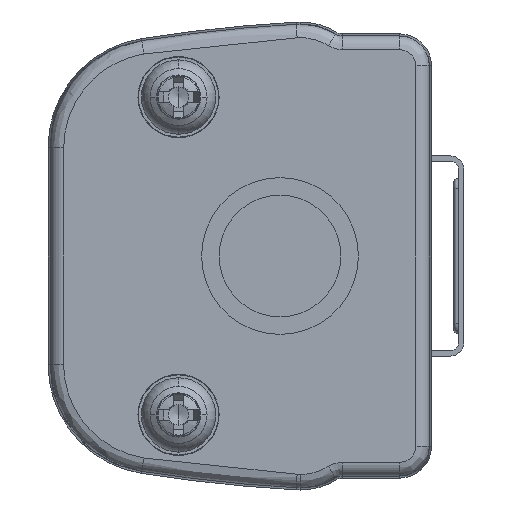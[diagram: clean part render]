
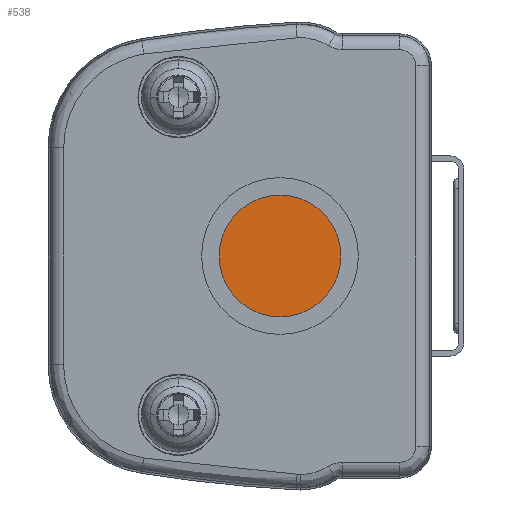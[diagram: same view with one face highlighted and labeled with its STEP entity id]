
A CAD part, left-side view. The second image highlights one B-rep face of the part: STEP entity #538.
In plain terms, the highlighted planar face has unit normal (-1, 0, 0).
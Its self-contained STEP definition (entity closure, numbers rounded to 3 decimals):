
#538 = ADVANCED_FACE ( 'NONE', ( #6639 ), #4365, .T. ) ;
#3028 = CARTESIAN_POINT ( 'NONE',  ( -157.2, -2.628, 305. ) ) ;
#3164 = CARTESIAN_POINT ( 'NONE',  ( -157.2, -2.628, 309.5 ) ) ;
#3311 = AXIS2_PLACEMENT_3D ( 'NONE', #3028, #7895, #8906 ) ;
#3811 = EDGE_CURVE ( 'NONE', #10605, #4423, #3961, .T. ) ;
#3827 = CIRCLE ( 'NONE', #6085, 4.5 ) ;
#3961 = CIRCLE ( 'NONE', #4215, 4.5 ) ;
#4215 = AXIS2_PLACEMENT_3D ( 'NONE', #10098, #8833, #5223 ) ;
#4365 = PLANE ( 'NONE',  #3311 ) ;
#4423 = VERTEX_POINT ( 'NONE', #3164 ) ;
#5223 = DIRECTION ( 'NONE',  ( 0., 0., 1. ) ) ;
#6085 = AXIS2_PLACEMENT_3D ( 'NONE', #12112, #12042, #7461 ) ;
#6639 = FACE_OUTER_BOUND ( 'NONE', #13942, .T. ) ;
#7425 = ORIENTED_EDGE ( 'NONE', *, *, #3811, .T. ) ;
#7461 = DIRECTION ( 'NONE',  ( 0., 0., 1. ) ) ;
#7895 = DIRECTION ( 'NONE',  ( -1., 0., 0. ) ) ;
#8833 = DIRECTION ( 'NONE',  ( -1., 0., 0. ) ) ;
#8906 = DIRECTION ( 'NONE',  ( 0., 0., 1. ) ) ;
#10098 = CARTESIAN_POINT ( 'NONE',  ( -157.2, -2.628, 305. ) ) ;
#10605 = VERTEX_POINT ( 'NONE', #11039 ) ;
#11039 = CARTESIAN_POINT ( 'NONE',  ( -157.2, -2.628, 300.5 ) ) ;
#11968 = ORIENTED_EDGE ( 'NONE', *, *, #13943, .T. ) ;
#12042 = DIRECTION ( 'NONE',  ( -1., 0., 0. ) ) ;
#12112 = CARTESIAN_POINT ( 'NONE',  ( -157.2, -2.628, 305. ) ) ;
#13942 = EDGE_LOOP ( 'NONE', ( #11968, #7425 ) ) ;
#13943 = EDGE_CURVE ( 'NONE', #4423, #10605, #3827, .T. ) ;
